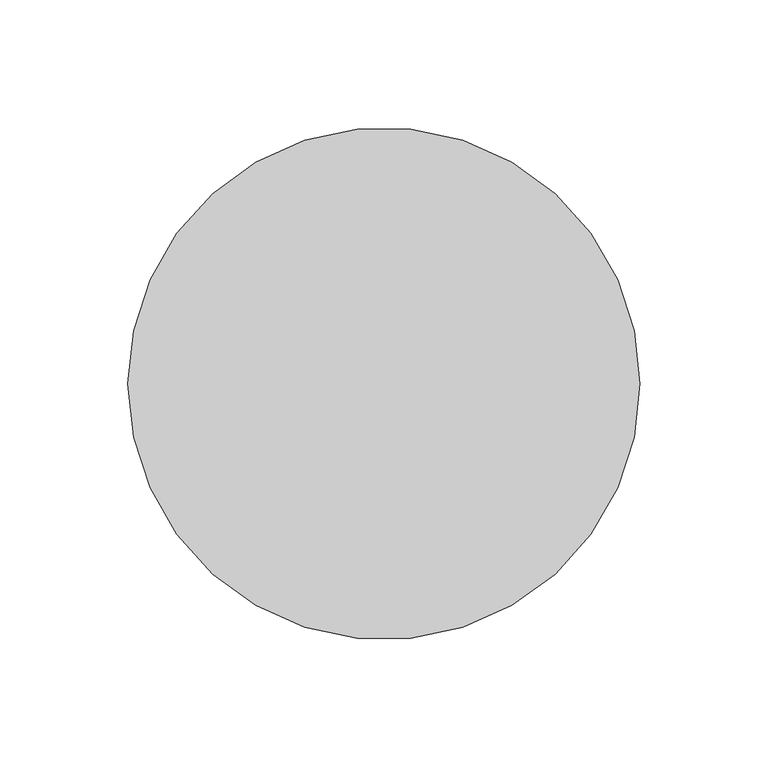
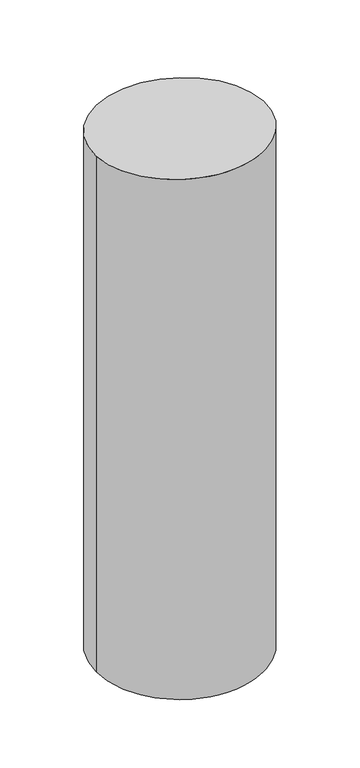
"""IFC4 building model written with IfcOpenShell, lengths in millimetres: member geometry, 矩形竖梃 : 圆瓦."""

from ifc_helpers import new_model, si_unit, frame, origin, origin_with_axes, place, context, project, spatial, circle_curve, ellipse_curve, source, transform, mapped, element, save
from ifc_brep_helpers import plane_surface, cylinder_surface, advanced_brep


def member_fd7b3f03(model_context):
    return source(origin(), model_context, "Body", "AdvancedBrep", [
        advanced_brep(
        [(100.0, 0.0, -653.4261896), (-100.0, 0.0, -653.4261896), (-100.0, 0.0, 0.0), (100.0, 0.0, 0.0)],
        [
            (0, 1, circle_curve(frame((0.0, 0.0, -653.4261896), z_axis=(0.0, 0.0, -1.0), x_axis=(1.0, 0.0, 0.0)), 100.0)),
            (1, 0, circle_curve(frame((0.0, 0.0, -653.4261896), z_axis=(0.0, 0.0, -1.0), x_axis=(1.0, 0.0, 0.0)), 100.0)),
            (2, 3, ellipse_curve(frame((0.0, 0.0, 0.0), z_axis=(0.0, -0.06182029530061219, -0.9980872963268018), x_axis=(0.0, -0.9980872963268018, 0.061820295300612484)), 100.1916369, 100.0)),
            (3, 0),
            (1, 2),
            (3, 2, ellipse_curve(frame((0.0, 0.0, 0.0), z_axis=(0.0, -0.06182029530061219, -0.9980872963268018), x_axis=(0.0, -0.9980872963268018, 0.061820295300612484)), 100.1916369, 100.0)),
        ],
        [
            plane_surface(frame((0.0, -100.0, -653.4261896), z_axis=(0.0, 0.0, -1.0), x_axis=(-1.0, 0.0, 0.0))),
            cylinder_surface(origin_with_axes(), 100.0),
            plane_surface(frame((-304.8, 0.0, 0.0), z_axis=(0.0, 0.06182029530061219, 0.9980872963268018), x_axis=(0.0, 0.9980872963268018, -0.06182029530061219))),
        ],
        [
            (0, [[1, 2]]),
            (1, [[3, 4, -2, 5]]),
            (1, [[6, -5, -1, -4]]),
            (2, [[-3, -6]]),
        ],
    ),
    ])


if __name__ == "__main__":
    model = new_model("IFC4")
    model_context = context("Model", 3, world=origin())
    ifc_project = project(units=[si_unit("LENGTHUNIT", "METRE", prefix="MILLI")], contexts=[model_context])
    site = spatial("IfcSite", under=ifc_project)
    building = spatial("IfcBuilding", under=site)
    placement = place(None, origin())
    member_shape = member_fd7b3f03(model_context)
    element("IfcMember", 1, ObjectType="矩形竖梃 : 圆瓦", at=placement, inside=building, context=model_context, shape_type="MappedRepresentation", body=[
        mapped(member_shape, transform((0.0, 0.0, 0.0), x_axis=(1.0, 0.0, 0.0), y_axis=(0.0, 1.0, 0.0), z_axis=(0.0, 0.0, 1.0))),
    ])
    save(model, "model.ifc")
